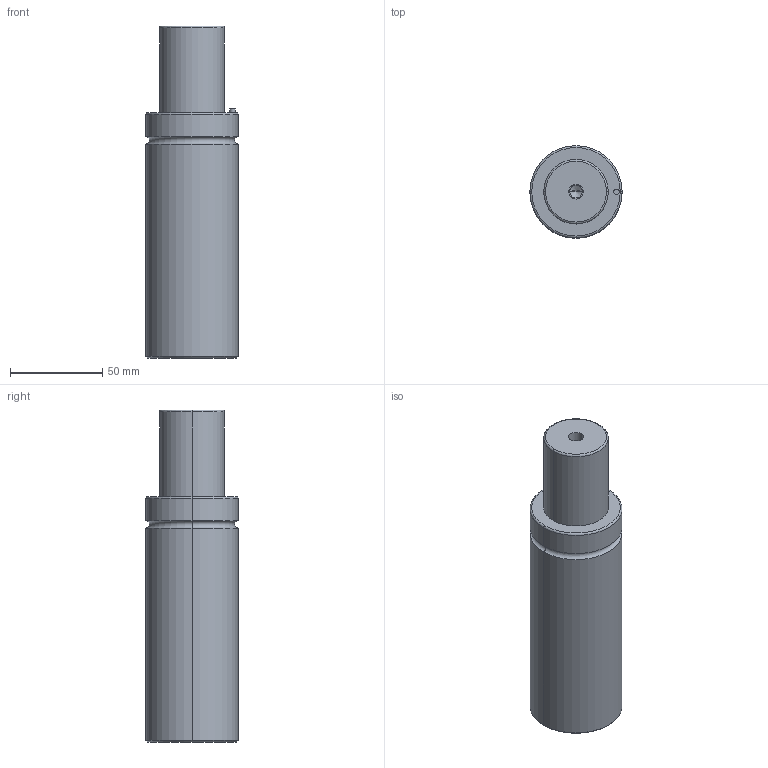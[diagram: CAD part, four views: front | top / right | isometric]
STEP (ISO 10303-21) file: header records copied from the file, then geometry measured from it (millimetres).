
FILE_DESCRIPTION(/* description */ (''),/* implementation_level */ '2;1');
FILE_NAME(/* name */ '3d_gsm50-45_03913_r00.stp',/* time_stamp */ '2011-01-10T14:15:15+09:00',/* author */ ('MISUMI'),/* organization */ (''),/* preprocessor_version */ 'ST-DEVELOPER v11',/* originating_system */ 'UGS - NX 5.0',/* authorisation */ '');
FILE_SCHEMA (('CONFIG_CONTROL_DESIGN'));
Length unit declared in the file: millimetre
Products named in the file (1): 3d_gsm50-45_03913_r00
Bounding box: 50 x 50 x 180 mm (x, y, z)
Volume: 302418.5 mm3; surface area: 31547.9 mm2
Topology: 1 solids, 1 shells, 48 faces, 102 edges, 58 vertices
Faces by surface type: cylinder 24, cone 10, plane 8, torus 6
Entity records: 1332 total; most frequent: DIRECTION 252, CARTESIAN_POINT 201, ORIENTED_EDGE 188, AXIS2_PLACEMENT_3D 109, EDGE_CURVE 94, CIRCLE 60, EDGE_LOOP 58, VERTEX_POINT 58
